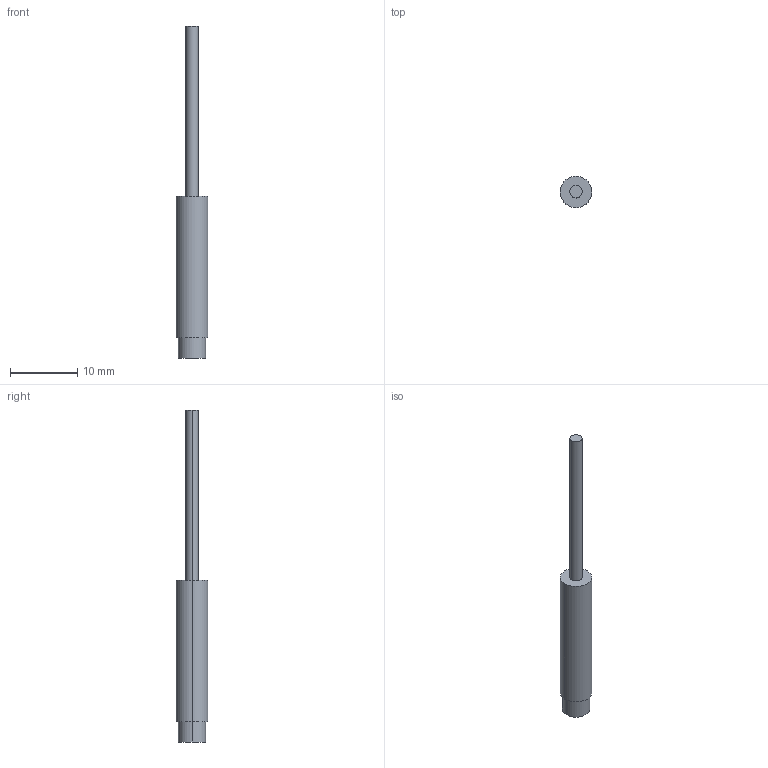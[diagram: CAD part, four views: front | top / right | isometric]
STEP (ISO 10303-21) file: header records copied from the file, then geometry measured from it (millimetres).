
FILE_DESCRIPTION (( 'STEP AP203' ), '1' );
FILE_NAME ('15N-002.STEP', '2010-03-05T18:57:48', ( 'tom edwards' ), ( 'Tom J. Edwards' ), 'SwSTEP 2.0', 'SolidWorks 2008', '' );
FILE_SCHEMA (( 'CONFIG_CONTROL_DESIGN' ));
Length unit declared in the file: inch
Products named in the file (1): 15N-002
Bounding box: 4.7 x 4.7 x 49.53 mm (x, y, z)
Volume: 471.8 mm3; surface area: 530.7 mm2
Topology: 1 solids, 1 shells, 10 faces, 18 edges, 12 vertices
Faces by surface type: cylinder 6, plane 4
Entity records: 333 total; most frequent: DIRECTION 52, CARTESIAN_POINT 41, ORIENTED_EDGE 36, AXIS2_PLACEMENT_3D 23, EDGE_CURVE 18, EDGE_LOOP 12, VERTEX_POINT 12, CIRCLE 12
